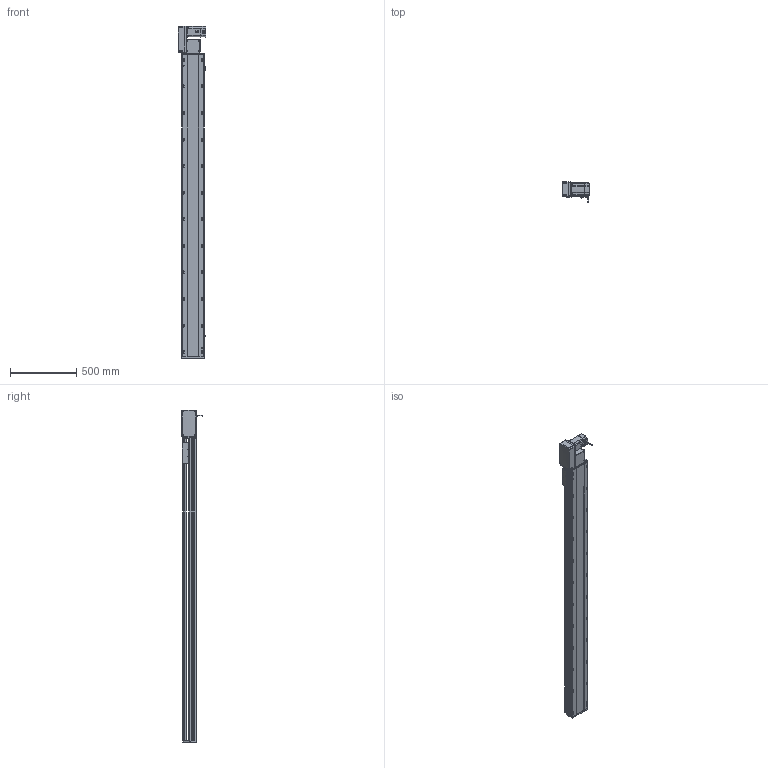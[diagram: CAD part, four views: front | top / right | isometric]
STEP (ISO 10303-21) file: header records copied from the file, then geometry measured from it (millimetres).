
FILE_DESCRIPTION (( 'STEP AP214' ), '1' );
FILE_NAME ('RTB17S-XX-2000-L-M75-C4.STEP', '2025-12-12T00:18:50', ( '' ), ( '' ), 'SwSTEP 2.0', 'SolidWorks 2018', '' );
FILE_SCHEMA (( 'AUTOMOTIVE_DESIGN' ));
Length unit declared in the file: millimetre
Products named in the file (15): RTB17S-L-004-賑釱^RTB17S-賑釱_RTB17S-XX-XX-L-M75-C4; RTB17-R-011菁釱^RTB17S-XX-XX-L-M75-C4; RTB17S-賑釱^RTB17S-XX-XX-L-M75-C4; RTB17S-XX-2000-L-M75-C4; 750W萇儂^RTB17S-XX-XX-L-M75-C4; RTB17S-L-007奻裔^RTB17S-XX-XX-L-M75-C4; RTB17S-L-001-耜醱啣^RTB17S-XX-XX-L-M75-C4; EE672^RTB17S-XX-XX-L-M75-C4; RTH13-BL-012覜茼え俋离^RTB17S-賑釱_RTB17S-XX-XX-L-M75-C4; RTB22S-GY-005P^RTB17S-L-々湍釱蚾饜-750W_RTB17S-XX-XX-L-M75-C4; RTB22S-GY-017P^RTB17S-L-々湍釱蚾饜-750W_RTB17S-XX-XX-L-M75-C4; RTB22S-GY-008-M75--萇儂啣^RTB17S-L-々湍釱蚾饜-750W_RTB17S-XX-XX-L-M75-C4; RMP17S-L-014-T20-P75--々湍釱^RTB17S-L-々湍釱蚾饜-750W_RTB17S-XX-XX-L-M75-C4; RTB22S-GY-018P^RTB17S-L-々湍釱蚾饜-750W_RTB17S-XX-XX-L-M75-C4; RTB17S-L-々湍釱蚾饜-750W^RTB17S-XX-XX-L-M75-C4
Assembly tree (17 placements, depth 3):
  RTB17S-XX-2000-L-M75-C4
    RTB17-R-011菁釱^RTB17S-XX-XX-L-M75-C4
    EE672^RTB17S-XX-XX-L-M75-C4  x3
    RTB17S-L-001-耜醱啣^RTB17S-XX-XX-L-M75-C4
    RTB17S-賑釱^RTB17S-XX-XX-L-M75-C4
      RTB17S-L-004-賑釱^RTB17S-賑釱_RTB17S-XX-XX-L-M75-C4
      RTH13-BL-012覜茼え俋离^RTB17S-賑釱_RTB17S-XX-XX-L-M75-C4
    RTB17S-L-007奻裔^RTB17S-XX-XX-L-M75-C4
    750W萇儂^RTB17S-XX-XX-L-M75-C4
    RTB17S-L-々湍釱蚾饜-750W^RTB17S-XX-XX-L-M75-C4
      RMP17S-L-014-T20-P75--々湍釱^RTB17S-L-々湍釱蚾饜-750W_RTB17S-XX-XX-L-M75-C4
      RTB22S-GY-005P^RTB17S-L-々湍釱蚾饜-750W_RTB17S-XX-XX-L-M75-C4
      RTB22S-GY-017P^RTB17S-L-々湍釱蚾饜-750W_RTB17S-XX-XX-L-M75-C4  x2
      RTB22S-GY-008-M75--萇儂啣^RTB17S-L-々湍釱蚾饜-750W_RTB17S-XX-XX-L-M75-C4
      RTB22S-GY-018P^RTB17S-L-々湍釱蚾饜-750W_RTB17S-XX-XX-L-M75-C4
Bounding box: 210.4 x 152.7 x 2499 mm (x, y, z)
Volume: 18454919 mm3; surface area: 3298349 mm2
Topology: 17 solids, 17 shells, 2169 faces, 6052 edges, 3914 vertices
Faces by surface type: plane 980, cylinder 773, bspline 294, cone 110, sphere 8, torus 4
Entity records: 61942 total; most frequent: CARTESIAN_POINT 18316, ORIENTED_EDGE 8948, DIRECTION 8312, EDGE_CURVE 4474, AXIS2_PLACEMENT_3D 2934, VERTEX_POINT 2918, VECTOR 2444, LINE 2444
